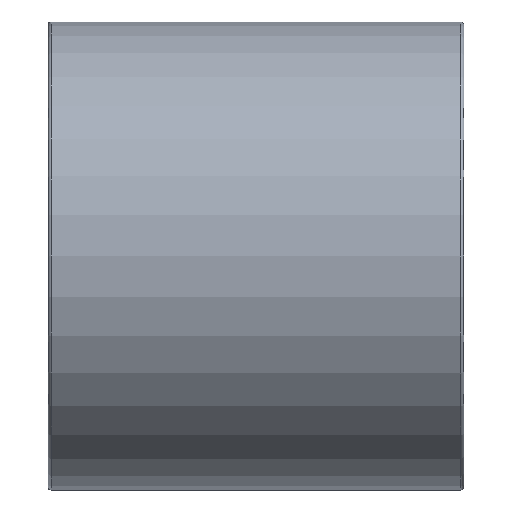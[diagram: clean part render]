
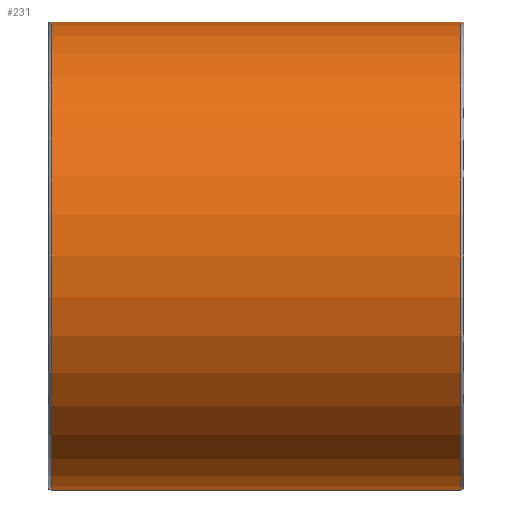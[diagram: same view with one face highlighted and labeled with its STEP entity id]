
A CAD part, front view. The second image highlights one B-rep face of the part: STEP entity #231.
In plain terms, the highlighted cylindrical face has radius 7.145 mm (diameter 14.29 mm), a full revolution.
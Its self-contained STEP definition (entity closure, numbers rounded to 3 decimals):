
#88=CYLINDRICAL_SURFACE('',#252,7.145);
#94=FACE_BOUND('',#126,.T.);
#108=FACE_OUTER_BOUND('',#125,.T.);
#125=EDGE_LOOP('',(#200));
#126=EDGE_LOOP('',(#201));
#153=CIRCLE('',#250,7.145);
#155=CIRCLE('',#253,7.145);
#168=VERTEX_POINT('',#397);
#170=VERTEX_POINT('',#402);
#183=EDGE_CURVE('',#168,#168,#153,.T.);
#185=EDGE_CURVE('',#170,#170,#155,.T.);
#200=ORIENTED_EDGE('',*,*,#185,.F.);
#201=ORIENTED_EDGE('',*,*,#183,.F.);
#231=ADVANCED_FACE('',(#108,#94),#88,.T.);
#250=AXIS2_PLACEMENT_3D('',#398,#301,#302);
#252=AXIS2_PLACEMENT_3D('',#401,#305,#306);
#253=AXIS2_PLACEMENT_3D('',#403,#307,#308);
#301=DIRECTION('center_axis',(1.,0.,0.));
#302=DIRECTION('ref_axis',(0.,-1.,0.));
#305=DIRECTION('center_axis',(1.,0.,0.));
#306=DIRECTION('ref_axis',(0.,1.,0.));
#307=DIRECTION('center_axis',(-1.,0.,0.));
#308=DIRECTION('ref_axis',(0.,-1.,0.));
#397=CARTESIAN_POINT('',(6.25,7.145,0.));
#398=CARTESIAN_POINT('Origin',(6.25,0.,0.));
#401=CARTESIAN_POINT('Origin',(0.,0.,
0.));
#402=CARTESIAN_POINT('',(-6.25,7.145,0.));
#403=CARTESIAN_POINT('Origin',(-6.25,0.,0.));
